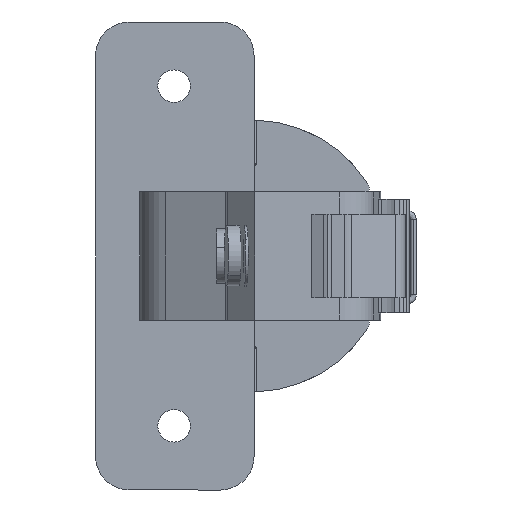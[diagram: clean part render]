
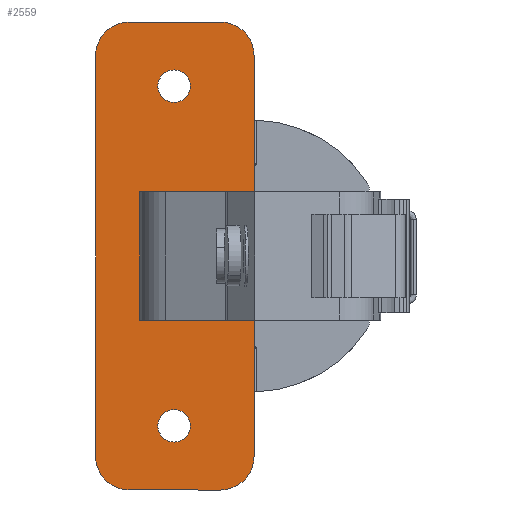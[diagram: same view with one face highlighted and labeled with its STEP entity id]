
A CAD part, left-side view. The second image highlights one B-rep face of the part: STEP entity #2559.
In plain terms, the highlighted planar face has unit normal (-1, 0, 0).
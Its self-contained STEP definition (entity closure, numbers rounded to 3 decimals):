
#9 = LINE ( 'NONE', #2075, #3260 ) ;
#18 = CARTESIAN_POINT ( 'NONE',  ( -2.004, 40.947, 31. ) ) ;
#88 = VECTOR ( 'NONE', #1439, 1000. ) ;
#115 = ORIENTED_EDGE ( 'NONE', *, *, #1637, .T. ) ;
#221 = VERTEX_POINT ( 'NONE', #5150 ) ;
#244 = DIRECTION ( 'NONE',  ( 0., -1., 0. ) ) ;
#286 = CARTESIAN_POINT ( 'NONE',  ( -2.004, 32.861, 22.5 ) ) ;
#439 = DIRECTION ( 'NONE',  ( -1., 0., 0. ) ) ;
#473 = CIRCLE ( 'NONE', #4303, 4.464 ) ;
#539 = VERTEX_POINT ( 'NONE', #3724 ) ;
#619 = VECTOR ( 'NONE', #2612, 1000. ) ;
#638 = CARTESIAN_POINT ( 'NONE',  ( -2.004, 37.161, 22.5 ) ) ;
#647 = DIRECTION ( 'NONE',  ( -1., 0., 0. ) ) ;
#655 = AXIS2_PLACEMENT_3D ( 'NONE', #2837, #2352, #3144 ) ;
#713 = ORIENTED_EDGE ( 'NONE', *, *, #869, .T. ) ;
#716 = CARTESIAN_POINT ( 'NONE',  ( -2.004, 39.566, 8.5 ) ) ;
#751 = VECTOR ( 'NONE', #2166, 1000. ) ;
#869 = EDGE_CURVE ( 'NONE', #2128, #2743, #4918, .T. ) ;
#875 = FACE_BOUND ( 'NONE', #3948, .T. ) ;
#984 = ORIENTED_EDGE ( 'NONE', *, *, #1391, .F. ) ;
#1097 = DIRECTION ( 'NONE',  ( 0., 0., 1. ) ) ;
#1111 = AXIS2_PLACEMENT_3D ( 'NONE', #3001, #439, #3434 ) ;
#1190 = AXIS2_PLACEMENT_3D ( 'NONE', #5269, #647, #244 ) ;
#1192 = VERTEX_POINT ( 'NONE', #286 ) ;
#1258 = CARTESIAN_POINT ( 'NONE',  ( -2.004, 40.947, -31. ) ) ;
#1349 = VERTEX_POINT ( 'NONE', #1258 ) ;
#1369 = EDGE_LOOP ( 'NONE', ( #3799, #2361 ) ) ;
#1391 = EDGE_CURVE ( 'NONE', #2285, #3847, #2908, .T. ) ;
#1439 = DIRECTION ( 'NONE',  ( 0., 0., 1. ) ) ;
#1605 = VERTEX_POINT ( 'NONE', #3645 ) ;
#1637 = EDGE_CURVE ( 'NONE', #5097, #221, #4311, .T. ) ;
#1720 = VECTOR ( 'NONE', #5412, 1000. ) ;
#1759 = ORIENTED_EDGE ( 'NONE', *, *, #3751, .T. ) ;
#1790 = CARTESIAN_POINT ( 'NONE',  ( -2.004, 54.3, -8.5 ) ) ;
#1817 = ORIENTED_EDGE ( 'NONE', *, *, #4484, .T. ) ;
#1820 = DIRECTION ( 'NONE',  ( 0., 0., -1. ) ) ;
#1827 = DIRECTION ( 'NONE',  ( -1., 0., 0. ) ) ;
#1891 = CARTESIAN_POINT ( 'NONE',  ( -2.004, 35.011, 22.5 ) ) ;
#1936 = AXIS2_PLACEMENT_3D ( 'NONE', #2793, #2866, #2989 ) ;
#1938 = LINE ( 'NONE', #4745, #5149 ) ;
#1978 = AXIS2_PLACEMENT_3D ( 'NONE', #3212, #3230, #3588 ) ;
#2075 = CARTESIAN_POINT ( 'NONE',  ( -2.004, 28.875, -31. ) ) ;
#2128 = VERTEX_POINT ( 'NONE', #716 ) ;
#2137 = EDGE_CURVE ( 'NONE', #539, #5112, #2197, .T. ) ;
#2140 = VERTEX_POINT ( 'NONE', #3218 ) ;
#2166 = DIRECTION ( 'NONE',  ( 0., 1., 0. ) ) ;
#2197 = CIRCLE ( 'NONE', #1190, 2.15 ) ;
#2227 = AXIS2_PLACEMENT_3D ( 'NONE', #4789, #4828, #4850 ) ;
#2285 = VERTEX_POINT ( 'NONE', #5375 ) ;
#2308 = ORIENTED_EDGE ( 'NONE', *, *, #2596, .T. ) ;
#2312 = DIRECTION ( 'NONE',  ( 0., -1., 0. ) ) ;
#2330 = EDGE_CURVE ( 'NONE', #5112, #539, #5163, .T. ) ;
#2335 = VECTOR ( 'NONE', #1097, 1000. ) ;
#2352 = DIRECTION ( 'NONE',  ( -1., 0., 0. ) ) ;
#2361 = ORIENTED_EDGE ( 'NONE', *, *, #2137, .F. ) ;
#2372 = CARTESIAN_POINT ( 'NONE',  ( -2.004, 40.947, -26.536 ) ) ;
#2416 = EDGE_CURVE ( 'NONE', #4777, #1192, #4765, .T. ) ;
#2559 = ADVANCED_FACE ( 'NONE', ( #5208, #875, #4262 ), #2852, .T. ) ;
#2569 = VERTEX_POINT ( 'NONE', #3528 ) ;
#2596 = EDGE_CURVE ( 'NONE', #221, #3847, #3994, .T. ) ;
#2612 = DIRECTION ( 'NONE',  ( 0., -1., 0. ) ) ;
#2674 = ORIENTED_EDGE ( 'NONE', *, *, #3626, .F. ) ;
#2732 = CARTESIAN_POINT ( 'NONE',  ( -2.004, 24.411, 8.5 ) ) ;
#2743 = VERTEX_POINT ( 'NONE', #2732 ) ;
#2788 = DIRECTION ( 'NONE',  ( 0., -1., 0. ) ) ;
#2793 = CARTESIAN_POINT ( 'NONE',  ( -2.004, 35.011, -22.5 ) ) ;
#2796 = CARTESIAN_POINT ( 'NONE',  ( -2.004, 28.875, -31. ) ) ;
#2837 = CARTESIAN_POINT ( 'NONE',  ( -2.004, 40.947, -26.536 ) ) ;
#2852 = PLANE ( 'NONE',  #655 ) ;
#2866 = DIRECTION ( 'NONE',  ( -1., 0., 0. ) ) ;
#2908 = LINE ( 'NONE', #1790, #619 ) ;
#2982 = CIRCLE ( 'NONE', #3404, 2.15 ) ;
#2989 = DIRECTION ( 'NONE',  ( 0., -1., 0. ) ) ;
#3001 = CARTESIAN_POINT ( 'NONE',  ( -2.004, 28.875, 26.536 ) ) ;
#3017 = LINE ( 'NONE', #18, #751 ) ;
#3096 = CARTESIAN_POINT ( 'NONE',  ( -2.004, 24.411, 26.536 ) ) ;
#3111 = ORIENTED_EDGE ( 'NONE', *, *, #5256, .T. ) ;
#3125 = ORIENTED_EDGE ( 'NONE', *, *, #2416, .F. ) ;
#3144 = DIRECTION ( 'NONE',  ( 0., -1., 0. ) ) ;
#3149 = ORIENTED_EDGE ( 'NONE', *, *, #3275, .T. ) ;
#3190 = ORIENTED_EDGE ( 'NONE', *, *, #3897, .T. ) ;
#3212 = CARTESIAN_POINT ( 'NONE',  ( -2.004, 28.875, -26.536 ) ) ;
#3218 = CARTESIAN_POINT ( 'NONE',  ( -2.004, 28.875, 31. ) ) ;
#3230 = DIRECTION ( 'NONE',  ( -1., 0., 0. ) ) ;
#3234 = CARTESIAN_POINT ( 'NONE',  ( -2.004, 24.411, 26.536 ) ) ;
#3260 = VECTOR ( 'NONE', #4995, 1000. ) ;
#3275 = EDGE_CURVE ( 'NONE', #2285, #2128, #4572, .T. ) ;
#3404 = AXIS2_PLACEMENT_3D ( 'NONE', #1891, #4808, #2312 ) ;
#3434 = DIRECTION ( 'NONE',  ( 0., -1., 0. ) ) ;
#3528 = CARTESIAN_POINT ( 'NONE',  ( -2.004, 40.947, 31. ) ) ;
#3588 = DIRECTION ( 'NONE',  ( 0., -1., 0. ) ) ;
#3626 = EDGE_CURVE ( 'NONE', #1192, #4777, #2982, .T. ) ;
#3645 = CARTESIAN_POINT ( 'NONE',  ( -2.004, 45.411, 26.536 ) ) ;
#3706 = ORIENTED_EDGE ( 'NONE', *, *, #3828, .T. ) ;
#3724 = CARTESIAN_POINT ( 'NONE',  ( -2.004, 37.161, -22.5 ) ) ;
#3751 = EDGE_CURVE ( 'NONE', #4842, #1349, #4949, .T. ) ;
#3792 = VERTEX_POINT ( 'NONE', #3234 ) ;
#3799 = ORIENTED_EDGE ( 'NONE', *, *, #2330, .F. ) ;
#3828 = EDGE_CURVE ( 'NONE', #3792, #2140, #4566, .T. ) ;
#3847 = VERTEX_POINT ( 'NONE', #4696 ) ;
#3897 = EDGE_CURVE ( 'NONE', #1605, #4842, #1938, .T. ) ;
#3948 = EDGE_LOOP ( 'NONE', ( #2674, #3125 ) ) ;
#3994 = LINE ( 'NONE', #4422, #5094 ) ;
#4055 = CARTESIAN_POINT ( 'NONE',  ( -2.004, 39.566, -89.004 ) ) ;
#4075 = EDGE_LOOP ( 'NONE', ( #984, #3149, #713, #1817, #3706, #4578, #4389, #3190, #1759, #3111, #115, #2308 ) ) ;
#4257 = AXIS2_PLACEMENT_3D ( 'NONE', #2372, #5271, #2788 ) ;
#4262 = FACE_BOUND ( 'NONE', #1369, .T. ) ;
#4303 = AXIS2_PLACEMENT_3D ( 'NONE', #4359, #1827, #4752 ) ;
#4311 = CIRCLE ( 'NONE', #1978, 4.464 ) ;
#4319 = EDGE_CURVE ( 'NONE', #2140, #2569, #3017, .T. ) ;
#4359 = CARTESIAN_POINT ( 'NONE',  ( -2.004, 40.947, 26.536 ) ) ;
#4389 = ORIENTED_EDGE ( 'NONE', *, *, #4421, .T. ) ;
#4421 = EDGE_CURVE ( 'NONE', #2569, #1605, #473, .T. ) ;
#4422 = CARTESIAN_POINT ( 'NONE',  ( -2.004, 24.411, 26.536 ) ) ;
#4484 = EDGE_CURVE ( 'NONE', #2743, #3792, #4599, .T. ) ;
#4489 = CARTESIAN_POINT ( 'NONE',  ( -2.004, 32.861, -22.5 ) ) ;
#4566 = CIRCLE ( 'NONE', #1111, 4.464 ) ;
#4572 = LINE ( 'NONE', #4055, #2335 ) ;
#4578 = ORIENTED_EDGE ( 'NONE', *, *, #4319, .T. ) ;
#4599 = LINE ( 'NONE', #3096, #88 ) ;
#4696 = CARTESIAN_POINT ( 'NONE',  ( -2.004, 24.411, -8.5 ) ) ;
#4745 = CARTESIAN_POINT ( 'NONE',  ( -2.004, 45.411, -26.536 ) ) ;
#4752 = DIRECTION ( 'NONE',  ( 0., -1., 0. ) ) ;
#4765 = CIRCLE ( 'NONE', #2227, 2.15 ) ;
#4777 = VERTEX_POINT ( 'NONE', #638 ) ;
#4789 = CARTESIAN_POINT ( 'NONE',  ( -2.004, 35.011, 22.5 ) ) ;
#4808 = DIRECTION ( 'NONE',  ( -1., 0., 0. ) ) ;
#4828 = DIRECTION ( 'NONE',  ( -1., 0., 0. ) ) ;
#4842 = VERTEX_POINT ( 'NONE', #4921 ) ;
#4850 = DIRECTION ( 'NONE',  ( 0., -1., 0. ) ) ;
#4866 = DIRECTION ( 'NONE',  ( 0., 0., 1. ) ) ;
#4918 = LINE ( 'NONE', #5451, #1720 ) ;
#4921 = CARTESIAN_POINT ( 'NONE',  ( -2.004, 45.411, -26.536 ) ) ;
#4949 = CIRCLE ( 'NONE', #4257, 4.464 ) ;
#4995 = DIRECTION ( 'NONE',  ( 0., -1., 0. ) ) ;
#5094 = VECTOR ( 'NONE', #4866, 1000. ) ;
#5097 = VERTEX_POINT ( 'NONE', #2796 ) ;
#5112 = VERTEX_POINT ( 'NONE', #4489 ) ;
#5149 = VECTOR ( 'NONE', #1820, 1000. ) ;
#5150 = CARTESIAN_POINT ( 'NONE',  ( -2.004, 24.411, -26.536 ) ) ;
#5163 = CIRCLE ( 'NONE', #1936, 2.15 ) ;
#5208 = FACE_OUTER_BOUND ( 'NONE', #4075, .T. ) ;
#5256 = EDGE_CURVE ( 'NONE', #1349, #5097, #9, .T. ) ;
#5269 = CARTESIAN_POINT ( 'NONE',  ( -2.004, 35.011, -22.5 ) ) ;
#5271 = DIRECTION ( 'NONE',  ( -1., 0., 0. ) ) ;
#5375 = CARTESIAN_POINT ( 'NONE',  ( -2.004, 39.566, -8.5 ) ) ;
#5412 = DIRECTION ( 'NONE',  ( 0., -1., 0. ) ) ;
#5451 = CARTESIAN_POINT ( 'NONE',  ( -2.004, 28.403, 8.5 ) ) ;
